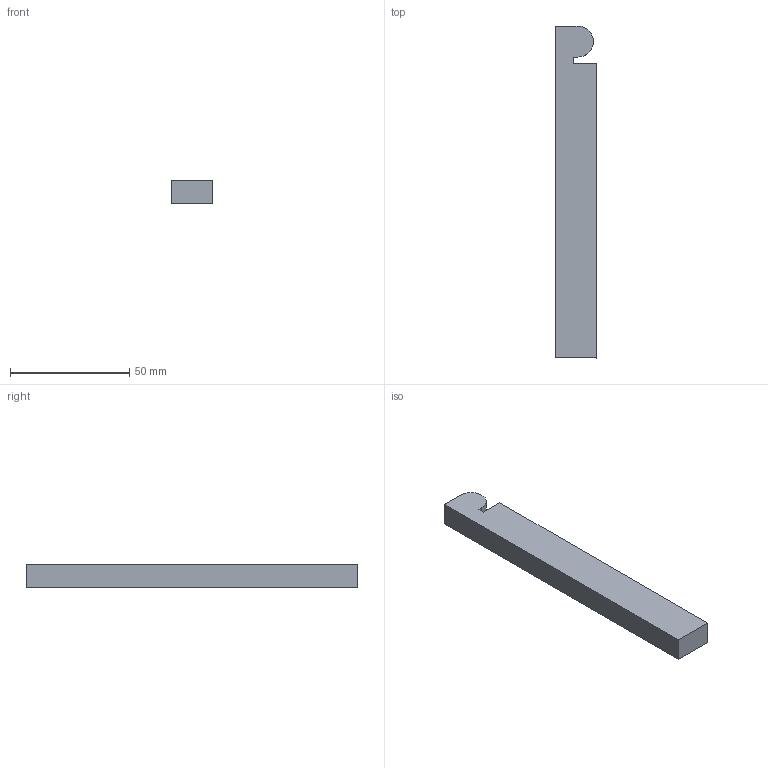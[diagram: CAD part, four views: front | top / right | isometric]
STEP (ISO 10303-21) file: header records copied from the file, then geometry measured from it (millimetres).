
FILE_DESCRIPTION (( 'STEP AP203' ), '1' );
FILE_NAME ('AB111FJ.STEP', '2024-02-17T09:13:39', ( '' ), ( '' ), 'SwSTEP 2.0', 'SolidWorks 2020', '' );
FILE_SCHEMA (( 'CONFIG_CONTROL_DESIGN' ));
Length unit declared in the file: millimetre
Products named in the file (1): AB111FJ
Bounding box: 17.34 x 139.06 x 10 mm (x, y, z)
Volume: 23478.9 mm3; surface area: 7932.3 mm2
Topology: 1 solids, 1 shells, 11 faces, 27 edges, 18 vertices
Faces by surface type: plane 10, cylinder 1
Entity records: 400 total; most frequent: CARTESIAN_POINT 57, ORIENTED_EDGE 54, DIRECTION 53, EDGE_CURVE 27, VECTOR 25, LINE 25, VERTEX_POINT 18, AXIS2_PLACEMENT_3D 14
